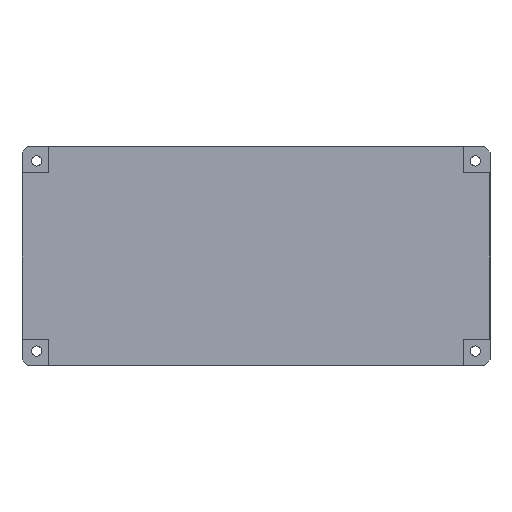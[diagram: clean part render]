
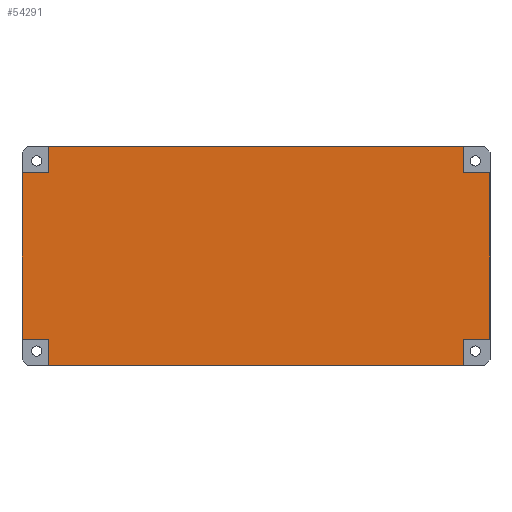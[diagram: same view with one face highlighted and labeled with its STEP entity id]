
A CAD part, front view. The second image highlights one B-rep face of the part: STEP entity #54291.
In plain terms, the highlighted planar face has unit normal (0, -1, 0).
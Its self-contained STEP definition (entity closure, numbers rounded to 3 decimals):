
#6 = EDGE_CURVE ( 'NONE', #1031, #5927, #60423, .T. ) ;
#496 = EDGE_CURVE ( 'NONE', #32728, #8044, #60510, .T. ) ;
#1020 = ORIENTED_EDGE ( 'NONE', *, *, #6, .T. ) ;
#1021 = EDGE_CURVE ( 'NONE', #60907, #23572, #60723, .T. ) ;
#1023 = ORIENTED_EDGE ( 'NONE', *, *, #1026, .T. ) ;
#1026 = EDGE_CURVE ( 'NONE', #25146, #1031, #60797, .T. ) ;
#1030 = ORIENTED_EDGE ( 'NONE', *, *, #496, .T. ) ;
#1031 = VERTEX_POINT ( 'NONE', #60820 ) ;
#1039 = ORIENTED_EDGE ( 'NONE', *, *, #27364, .F. ) ;
#1040 = ORIENTED_EDGE ( 'NONE', *, *, #6881, .F. ) ;
#5927 = VERTEX_POINT ( 'NONE', #43925 ) ;
#6881 = EDGE_CURVE ( 'NONE', #32728, #5927, #44035, .T. ) ;
#6988 = ORIENTED_EDGE ( 'NONE', *, *, #55385, .T. ) ;
#7062 = VERTEX_POINT ( 'NONE', #44046 ) ;
#8044 = VERTEX_POINT ( 'NONE', #44238 ) ;
#8092 = ORIENTED_EDGE ( 'NONE', *, *, #13177, .T. ) ;
#8788 = CARTESIAN_POINT ( 'NONE',  ( 151., -9.6, -9. ) ) ;
#8969 = CARTESIAN_POINT ( 'NONE',  ( 9., -9.6, -9. ) ) ;
#9706 = EDGE_CURVE ( 'NONE', #10059, #32841, #44440, .T. ) ;
#10059 = VERTEX_POINT ( 'NONE', #44467 ) ;
#11926 = VERTEX_POINT ( 'NONE', #44673 ) ;
#13177 = EDGE_CURVE ( 'NONE', #7062, #60907, #44781, .T. ) ;
#14358 = EDGE_CURVE ( 'NONE', #60890, #11926, #44875, .T. ) ;
#15938 = EDGE_CURVE ( 'NONE', #7062, #11926, #45033, .T. ) ;
#16062 = EDGE_CURVE ( 'NONE', #8044, #32841, #45026, .T. ) ;
#22863 = FACE_OUTER_BOUND ( 'NONE', #60903, .T. ) ;
#22927 = AXIS2_PLACEMENT_3D ( 'NONE', #23000, #22998, #22996 ) ;
#22970 = PLANE ( 'NONE',  #22927 ) ;
#22996 = DIRECTION ( 'NONE',  ( 0., 0., -1. ) ) ;
#22998 = DIRECTION ( 'NONE',  ( 0., -1., 0. ) ) ;
#23000 = CARTESIAN_POINT ( 'NONE',  ( 0.1, -9.6, -74.9 ) ) ;
#23572 = VERTEX_POINT ( 'NONE', #45474 ) ;
#25146 = VERTEX_POINT ( 'NONE', #45524 ) ;
#27364 = EDGE_CURVE ( 'NONE', #25146, #23572, #45661, .T. ) ;
#27715 = DIRECTION ( 'NONE',  ( -1., 0., 0. ) ) ;
#27716 = VECTOR ( 'NONE', #27715, 1000. ) ;
#27725 = LINE ( 'NONE', #27728, #27716 ) ;
#27728 = CARTESIAN_POINT ( 'NONE',  ( 159.9, -9.6, -9. ) ) ;
#32728 = VERTEX_POINT ( 'NONE', #46049 ) ;
#32841 = VERTEX_POINT ( 'NONE', #46124 ) ;
#43925 = CARTESIAN_POINT ( 'NONE',  ( 9., -9.6, -74.9 ) ) ;
#44029 = DIRECTION ( 'NONE',  ( -1., 0., 0. ) ) ;
#44030 = VECTOR ( 'NONE', #44029, 1000. ) ;
#44034 = CARTESIAN_POINT ( 'NONE',  ( 0.1, -9.6, -74.9 ) ) ;
#44035 = LINE ( 'NONE', #44034, #44030 ) ;
#44046 = CARTESIAN_POINT ( 'NONE',  ( 9., -9.6, -0.1 ) ) ;
#44238 = CARTESIAN_POINT ( 'NONE',  ( 151., -9.6, -66. ) ) ;
#44400 = CARTESIAN_POINT ( 'NONE',  ( 159.9, -9.6, -0.1 ) ) ;
#44433 = DIRECTION ( 'NONE',  ( 0., 0., -1. ) ) ;
#44434 = VECTOR ( 'NONE', #44433, 1000. ) ;
#44440 = LINE ( 'NONE', #44400, #44434 ) ;
#44467 = CARTESIAN_POINT ( 'NONE',  ( 159.9, -9.6, -9. ) ) ;
#44673 = CARTESIAN_POINT ( 'NONE',  ( 151., -9.6, -0.1 ) ) ;
#44768 = DIRECTION ( 'NONE',  ( 0., 0., -1. ) ) ;
#44769 = VECTOR ( 'NONE', #44768, 1000. ) ;
#44780 = CARTESIAN_POINT ( 'NONE',  ( 9., -9.6, -0.1 ) ) ;
#44781 = LINE ( 'NONE', #44780, #44769 ) ;
#44866 = DIRECTION ( 'NONE',  ( 0., 0., 1. ) ) ;
#44867 = VECTOR ( 'NONE', #44866, 1000. ) ;
#44868 = CARTESIAN_POINT ( 'NONE',  ( 151., -9.6, -0.1 ) ) ;
#44875 = LINE ( 'NONE', #44868, #44867 ) ;
#44999 = DIRECTION ( 'NONE',  ( 1., 0., 0. ) ) ;
#45000 = CARTESIAN_POINT ( 'NONE',  ( 0.1, -9.6, -0.1 ) ) ;
#45021 = DIRECTION ( 'NONE',  ( 1., 0., 0. ) ) ;
#45022 = VECTOR ( 'NONE', #45021, 1000. ) ;
#45023 = CARTESIAN_POINT ( 'NONE',  ( 159.9, -9.6, -66. ) ) ;
#45026 = LINE ( 'NONE', #45023, #45022 ) ;
#45028 = VECTOR ( 'NONE', #44999, 1000. ) ;
#45033 = LINE ( 'NONE', #45000, #45028 ) ;
#45474 = CARTESIAN_POINT ( 'NONE',  ( 0.1, -9.6, -9. ) ) ;
#45524 = CARTESIAN_POINT ( 'NONE',  ( 0.1, -9.6, -66. ) ) ;
#45661 = LINE ( 'NONE', #45702, #45701 ) ;
#45700 = DIRECTION ( 'NONE',  ( 0., 0., 1. ) ) ;
#45701 = VECTOR ( 'NONE', #45700, 1000. ) ;
#45702 = CARTESIAN_POINT ( 'NONE',  ( 0.1, -9.6, -0.1 ) ) ;
#46049 = CARTESIAN_POINT ( 'NONE',  ( 151., -9.6, -74.9 ) ) ;
#46124 = CARTESIAN_POINT ( 'NONE',  ( 159.9, -9.6, -66. ) ) ;
#54291 = ADVANCED_FACE ( 'NONE', ( #22863 ), #22970, .T. ) ;
#54573 = ORIENTED_EDGE ( 'NONE', *, *, #14358, .T. ) ;
#54641 = ORIENTED_EDGE ( 'NONE', *, *, #16062, .T. ) ;
#54662 = ORIENTED_EDGE ( 'NONE', *, *, #1021, .T. ) ;
#54987 = ORIENTED_EDGE ( 'NONE', *, *, #15938, .F. ) ;
#55385 = EDGE_CURVE ( 'NONE', #10059, #60890, #27725, .T. ) ;
#60352 = DIRECTION ( 'NONE',  ( 0., 0., -1. ) ) ;
#60407 = VECTOR ( 'NONE', #60352, 1000. ) ;
#60423 = LINE ( 'NONE', #60425, #60407 ) ;
#60425 = CARTESIAN_POINT ( 'NONE',  ( 9., -9.6, -74.9 ) ) ;
#60500 = VECTOR ( 'NONE', #60508, 1000. ) ;
#60508 = DIRECTION ( 'NONE',  ( 0., 0., 1. ) ) ;
#60509 = CARTESIAN_POINT ( 'NONE',  ( 151., -9.6, -74.9 ) ) ;
#60510 = LINE ( 'NONE', #60509, #60500 ) ;
#60723 = LINE ( 'NONE', #60837, #60836 ) ;
#60796 = CARTESIAN_POINT ( 'NONE',  ( 0.1, -9.6, -66. ) ) ;
#60797 = LINE ( 'NONE', #60796, #60839 ) ;
#60820 = CARTESIAN_POINT ( 'NONE',  ( 9., -9.6, -66. ) ) ;
#60835 = DIRECTION ( 'NONE',  ( -1., 0., 0. ) ) ;
#60836 = VECTOR ( 'NONE', #60835, 1000. ) ;
#60837 = CARTESIAN_POINT ( 'NONE',  ( 0.1, -9.6, -9. ) ) ;
#60838 = DIRECTION ( 'NONE',  ( 1., 0., 0. ) ) ;
#60839 = VECTOR ( 'NONE', #60838, 1000. ) ;
#60890 = VERTEX_POINT ( 'NONE', #8788 ) ;
#60891 = ORIENTED_EDGE ( 'NONE', *, *, #9706, .F. ) ;
#60903 = EDGE_LOOP ( 'NONE', ( #54641, #60891, #6988, #54573, #54987, #8092, #54662, #1039, #1023, #1020, #1040, #1030 ) ) ;
#60907 = VERTEX_POINT ( 'NONE', #8969 ) ;
